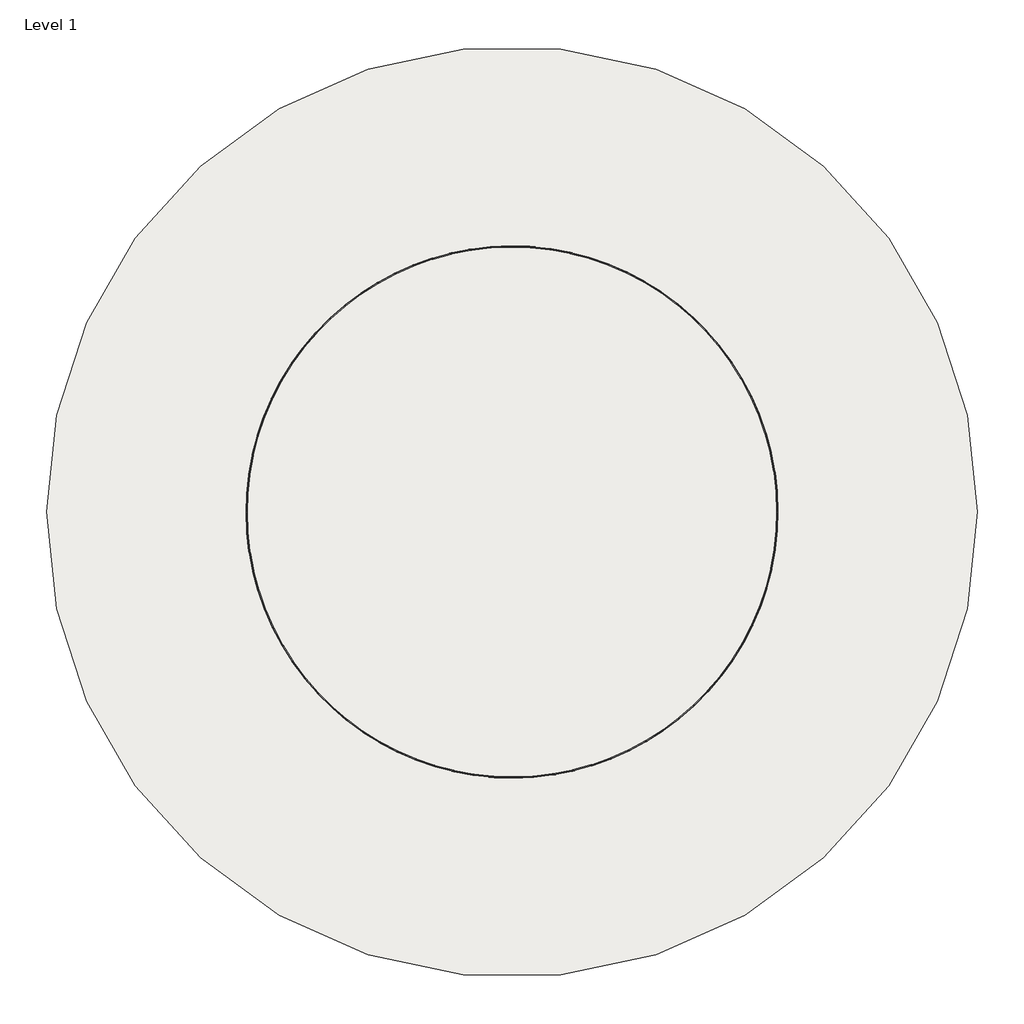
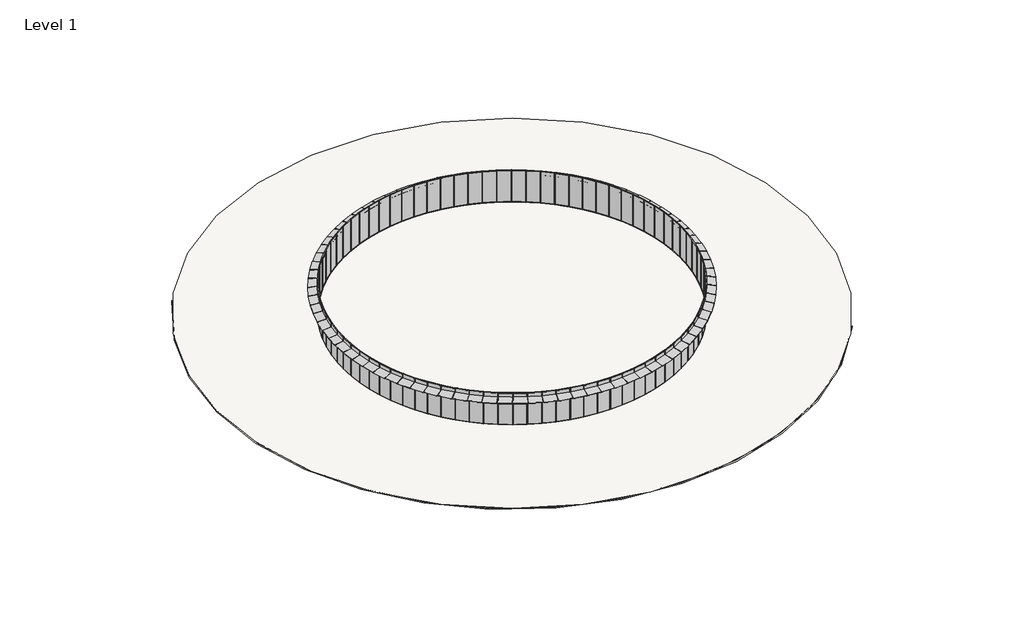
# One storey: 84 plates, 1 slab.
"""IFC4 building model written with IfcOpenShell, lengths in millimetres."""

from ifc_helpers import new_model, si_unit, point, frame, origin, origin_2d, place, context, project, spatial, circle_curve, trimmed, segment, composite_curve, outline, extrude, transform, mapped, element, save
from components import typical_panel_typical_panel_1d89b396, typical_panel_typical_panel_922f9ec0, typical_panel_typical_panel_46f82321

model = new_model("IFC4")

# Units and contexts
model_context = context("Model", 3, world=origin())
ifc_project = project(units=[si_unit("LENGTHUNIT", "METRE", prefix="MILLI")], contexts=[model_context])

# Site, building, storey
site = spatial("IfcSite", under=ifc_project)
building = spatial("IfcBuilding", under=site)
storey = spatial("IfcBuildingStorey", under=building, Name="Level 1", Elevation=0.0)

# Plates
placement = place(None, origin())
typical_panel_typical_panel_shape = typical_panel_typical_panel_1d89b396(model_context)
element("IfcPlate", 1, ObjectType="Typical Panel : Typical Panel", at=placement, inside=storey, context=model_context, shape_type="MappedRepresentation", body=[
    mapped(typical_panel_typical_panel_shape, transform((19971.8749993, 749.4724807, 0.0), x_axis=(-0.037500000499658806, 0.9992966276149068, 0.0), y_axis=(-0.9992966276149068, -0.037500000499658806, 0.0), z_axis=(0.0, 0.0, 1.0))),
])
element("IfcPlate", 2, ObjectType="Typical Panel : Typical Panel", at=placement, inside=storey, context=model_context, shape_type="MappedRepresentation", body=[
    mapped(typical_panel_typical_panel_shape, transform((-19971.8749993, -749.4724807, 0.0), x_axis=(0.03750000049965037, -0.9992966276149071, 0.0), y_axis=(0.9992966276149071, 0.03750000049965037, 0.0), z_axis=(0.0, 0.0, 1.0))),
])
typical_panel_typical_panel_2_shape = typical_panel_typical_panel_922f9ec0(model_context)
element("IfcPlate", 3, ObjectType="Typical Panel : Typical Panel", at=placement, inside=storey, context=model_context, shape_type="MappedRepresentation", body=[
    mapped(typical_panel_typical_panel_2_shape, transform((19859.5332009, 2244.2016494, 0.0), x_axis=(-0.11228906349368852, 0.9936755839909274, 0.0), y_axis=(-0.9936755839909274, -0.11228906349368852, 0.0), z_axis=(0.0, 0.0, 1.0))),
])
element("IfcPlate", 4, ObjectType="Typical Panel : Typical Panel", at=placement, inside=storey, context=model_context, shape_type="MappedRepresentation", body=[
    mapped(typical_panel_typical_panel_2_shape, transform((19635.4815283, 3726.3071738, 0.0), x_axis=(-0.18644650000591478, 0.9824651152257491, 0.0), y_axis=(-0.9824651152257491, -0.18644650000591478, 0.0), z_axis=(0.0, 0.0, 1.0))),
])
element("IfcPlate", 5, ObjectType="Typical Panel : Typical Panel", at=placement, inside=storey, context=model_context, shape_type="MappedRepresentation", body=[
    mapped(typical_panel_typical_panel_2_shape, transform((19300.980272, 5187.4522204, 0.0), x_axis=(-0.25955517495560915, 0.9657282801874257, 0.0), y_axis=(-0.9657282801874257, -0.25955517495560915, 0.0), z_axis=(0.0, 0.0, 1.0))),
])
element("IfcPlate", 6, ObjectType="Typical Panel : Typical Panel", at=placement, inside=storey, context=model_context, shape_type="MappedRepresentation", body=[
    mapped(typical_panel_typical_panel_2_shape, transform((18857.9110018, 6619.4178482, 0.0), x_axis=(-0.3312038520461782, 0.9435592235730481, 0.0), y_axis=(-0.9435592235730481, -0.3312038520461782, 0.0), z_axis=(0.0, 0.0, 1.0))),
])
element("IfcPlate", 7, ObjectType="Typical Panel : Typical Panel", at=placement, inside=storey, context=model_context, shape_type="MappedRepresentation", body=[
    mapped(typical_panel_typical_panel_2_shape, transform((18308.7659821, 8014.1492506, 0.0), x_axis=(-0.40098950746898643, 0.9160826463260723, 0.0), y_axis=(-0.9160826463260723, -0.40098950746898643, 0.0), z_axis=(0.0, 0.0, 1.0))),
])
element("IfcPlate", 8, ObjectType="Typical Panel : Typical Panel", at=placement, inside=storey, context=model_context, shape_type="MappedRepresentation", body=[
    mapped(typical_panel_typical_panel_2_shape, transform((17656.6341539, 9363.8010635, 0.0), x_axis=(-0.46851959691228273, 0.883453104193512, 0.0), y_axis=(-0.883453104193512, -0.46851959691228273, 0.0), z_axis=(0.0, 0.0, 1.0))),
])
element("IfcPlate", 9, ObjectType="Typical Panel : Typical Panel", at=placement, inside=storey, context=model_context, shape_type="MappedRepresentation", body=[
    mapped(typical_panel_typical_panel_2_shape, transform((16905.1837585, 10660.7814954, 0.0), x_axis=(-0.533414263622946, 0.8458541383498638, 0.0), y_axis=(-0.8458541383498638, -0.533414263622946, 0.0), z_axis=(0.0, 0.0, 1.0))),
])
element("IfcPlate", 10, ObjectType="Typical Panel : Typical Panel", at=placement, inside=storey, context=model_context, shape_type="MappedRepresentation", body=[
    mapped(typical_panel_typical_panel_2_shape, transform((16058.6417044, 11897.7950314, 0.0), x_axis=(-0.5953084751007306, 0.8034972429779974, 0.0), y_axis=(-0.8034972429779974, -0.5953084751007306, 0.0), z_axis=(0.0, 0.0, 1.0))),
])
element("IfcPlate", 11, ObjectType="Typical Panel : Typical Panel", at=placement, inside=storey, context=model_context, shape_type="MappedRepresentation", body=[
    mapped(typical_panel_typical_panel_2_shape, transform((15121.7697908, 13067.8834703, 0.0), x_axis=(-0.6538540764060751, 0.7566206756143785, 0.0), y_axis=(-0.7566206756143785, -0.6538540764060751, 0.0), z_axis=(0.0, 0.0, 1.0))),
])
element("IfcPlate", 12, ObjectType="Typical Panel : Typical Panel", at=placement, inside=storey, context=model_context, shape_type="MappedRepresentation", body=[
    mapped(typical_panel_typical_panel_2_shape, transform((14099.8379221, 14164.4650648, 0.0), x_axis=(-0.7087217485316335, 0.7054881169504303, 0.0), y_axis=(-0.7054881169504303, -0.7087217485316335, 0.0), z_axis=(0.0, 0.0, 1.0))),
])
element("IfcPlate", 13, ObjectType="Typical Panel : Typical Panel", at=placement, inside=storey, context=model_context, shape_type="MappedRepresentation", body=[
    mapped(typical_panel_typical_panel_2_shape, transform((12998.5944651, 15181.3715432, 0.0), x_axis=(-0.7596028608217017, 0.650387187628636, 0.0), y_axis=(-0.650387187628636, -0.7596028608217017, 0.0), z_axis=(0.0, 0.0, 1.0))),
])
element("IfcPlate", 14, ObjectType="Typical Panel : Typical Panel", at=placement, inside=storey, context=model_context, shape_type="MappedRepresentation", body=[
    mapped(typical_panel_typical_panel_2_shape, transform((11824.2339142, 16112.8828067, 0.0), x_axis=(-0.8062112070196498, 0.591627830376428, 0.0), y_axis=(-0.591627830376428, -0.8062112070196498, 0.0), z_axis=(0.0, 0.0, 1.0))),
])
element("IfcPlate", 15, ObjectType="Typical Panel : Typical Panel", at=placement, inside=storey, context=model_context, shape_type="MappedRepresentation", body=[
    mapped(typical_panel_typical_panel_2_shape, transform((10583.3620475, 16953.7591044, 0.0), x_axis=(-0.8482846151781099, 0.5295405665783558, 0.0), y_axis=(-0.5295405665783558, -0.8482846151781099, 0.0), z_axis=(0.0, 0.0, 1.0))),
])
element("IfcPlate", 16, ObjectType="Typical Panel : Typical Panel", at=placement, inside=storey, context=model_context, shape_type="MappedRepresentation", body=[
    mapped(typical_panel_typical_panel_2_shape, transform((9282.9587694, 17699.2705072, 0.0), x_axis=(-0.885586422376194, 0.46447463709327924, 0.0), y_axis=(-0.46447463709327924, -0.885586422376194, 0.0), z_axis=(0.0, 0.0, 1.0))),
])
element("IfcPlate", 17, ObjectType="Typical Panel : Typical Panel", at=placement, inside=storey, context=model_context, shape_type="MappedRepresentation", body=[
    mapped(typical_panel_typical_panel_2_shape, transform((7930.3388481, 18345.2235133, 0.0), x_axis=(-0.9179068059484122, 0.3967960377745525, 0.0), y_axis=(-0.3967960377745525, -0.9179068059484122, 0.0), z_axis=(0.0, 0.0, 1.0))),
])
element("IfcPlate", 18, ObjectType="Typical Panel : Typical Panel", at=placement, inside=storey, context=model_context, shape_type="MappedRepresentation", body=[
    mapped(typical_panel_typical_panel_2_shape, transform((6533.1107709, 18887.9846372, 0.0), x_axis=(-0.9450639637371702, 0.32688546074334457, 0.0), y_axis=(-0.32688546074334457, -0.9450639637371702, 0.0), z_axis=(0.0, 0.0, 1.0))),
])
element("IfcPlate", 19, ObjectType="Typical Panel : Typical Panel", at=placement, inside=storey, context=model_context, shape_type="MappedRepresentation", body=[
    mapped(typical_panel_typical_panel_2_shape, transform((5099.1339455, 19324.5008475, 0.0), x_axis=(-0.966905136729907, 0.2551361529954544, 0.0), y_axis=(-0.2551361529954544, -0.966905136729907, 0.0), z_axis=(0.0, 0.0, 1.0))),
])
element("IfcPlate", 20, ObjectType="Typical Panel : Typical Panel", at=placement, inside=storey, context=model_context, shape_type="MappedRepresentation", body=[
    mapped(typical_panel_typical_panel_2_shape, transform((3636.4744917, 19652.3167406, 0.0), x_axis=(-0.9833074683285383, 0.18195170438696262, 0.0), y_axis=(-0.18195170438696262, -0.9833074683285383, 0.0), z_axis=(0.0, 0.0, 1.0))),
])
element("IfcPlate", 21, ObjectType="Typical Panel : Typical Panel", at=placement, inside=storey, context=model_context, shape_type="MappedRepresentation", body=[
    mapped(typical_panel_typical_panel_2_shape, transform((2153.3598689, 19869.5883519, 0.0), x_axis=(-0.9941786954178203, 0.10774377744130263, 0.0), y_axis=(-0.10774377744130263, -0.9941786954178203, 0.0), z_axis=(0.0, 0.0, 1.0))),
])
element("IfcPlate", 22, ObjectType="Typical Panel : Typical Panel", at=placement, inside=storey, context=model_context, shape_type="MappedRepresentation", body=[
    mapped(typical_panel_typical_panel_2_shape, transform((658.1325968, 19975.0935288, 0.0), x_axis=(-0.9994576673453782, 0.032929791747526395, 0.0), y_axis=(-0.032929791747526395, -0.9994576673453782, 0.0), z_axis=(0.0, 0.0, 1.0))),
])
element("IfcPlate", 23, ObjectType="Typical Panel : Typical Panel", at=placement, inside=storey, context=model_context, shape_type="MappedRepresentation", body=[
    mapped(typical_panel_typical_panel_2_shape, transform((-840.7966711, 19968.2388046, 0.0), x_axis=(-0.999114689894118, -0.04206942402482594, 0.0), y_axis=(0.04206942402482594, -0.999114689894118, 0.0), z_axis=(0.0, 0.0, 1.0))),
])
element("IfcPlate", 24, ObjectType="Typical Panel : Typical Panel", at=placement, inside=storey, context=model_context, shape_type="MappedRepresentation", body=[
    mapped(typical_panel_typical_panel_2_shape, transform((-2334.9964577, 19849.0627371, 0.0), x_axis=(-0.9931516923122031, -0.11683199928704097, 0.0), y_axis=(0.11683199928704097, -0.9931516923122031, 0.0), z_axis=(0.0, 0.0, 1.0))),
])
element("IfcPlate", 25, ObjectType="Typical Panel : Typical Panel", at=placement, inside=storey, context=model_context, shape_type="MappedRepresentation", body=[
    mapped(typical_panel_typical_panel_2_shape, transform((-3816.0618893, 19618.2356917, 0.0), x_axis=(-0.9816022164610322, -0.19093739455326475, 0.0), y_axis=(0.19093739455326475, -0.9816022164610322, 0.0), z_axis=(0.0, 0.0, 1.0))),
])
element("IfcPlate", 26, ObjectType="Typical Panel : Typical Panel", at=placement, inside=storey, context=model_context, shape_type="MappedRepresentation", body=[
    mapped(typical_panel_typical_panel_2_shape, transform((-5275.6619728, 19277.0560706, 0.0), x_axis=(-0.964531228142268, -0.2639687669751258, 0.0), y_axis=(0.2639687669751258, -0.964531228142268, 0.0), z_axis=(0.0, 0.0, 1.0))),
])
element("IfcPlate", 27, ObjectType="Typical Panel : Typical Panel", at=placement, inside=storey, context=model_context, shape_type="MappedRepresentation", body=[
    mapped(typical_panel_typical_panel_2_shape, transform((-6705.5864576, 18827.4430091, 0.0), x_axis=(-0.9420347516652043, -0.3355153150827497, 0.0), y_axis=(0.3355153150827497, -0.9420347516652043, 0.0), z_axis=(0.0, 0.0, 1.0))),
])
element("IfcPlate", 28, ObjectType="Typical Panel : Typical Panel", at=placement, inside=storey, context=model_context, shape_type="MappedRepresentation", body=[
    mapped(typical_panel_typical_panel_2_shape, transform((-8097.7920187, 18271.9255806, 0.0), x_axis=(-0.9142393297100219, -0.4051745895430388, 0.0), y_axis=(0.4051745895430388, -0.9142393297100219, 0.0), z_axis=(0.0, 0.0, 1.0))),
])
element("IfcPlate", 29, ObjectType="Typical Panel : Typical Panel", at=placement, inside=storey, context=model_context, shape_type="MappedRepresentation", body=[
    mapped(typical_panel_typical_panel_2_shape, transform((-9444.4474996, 17613.6285707, 0.0), x_axis=(-0.881301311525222, -0.4725547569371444, 0.0), y_axis=(0.4725547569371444, -0.881301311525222, 0.0), z_axis=(0.0, 0.0, 1.0))),
])
element("IfcPlate", 30, ObjectType="Typical Panel : Typical Panel", at=placement, inside=storey, context=model_context, shape_type="MappedRepresentation", body=[
    mapped(typical_panel_typical_panel_2_shape, transform((-10737.9779633, 16856.2549002, 0.0), x_axis=(-0.8434059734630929, -0.5372768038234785, 0.0), y_axis=(0.5372768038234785, -0.8434059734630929, 0.0), z_axis=(0.0, 0.0, 1.0))),
])
element("IfcPlate", 31, ObjectType="Typical Panel : Typical Panel", at=placement, inside=storey, context=model_context, shape_type="MappedRepresentation", body=[
    mapped(typical_panel_typical_panel_2_shape, transform((-11971.107301, 16004.0647958, 0.0), x_axis=(-0.8007664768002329, -0.5989766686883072, 0.0), y_axis=(0.5989766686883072, -0.8007664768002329, 0.0), z_axis=(0.0, 0.0, 1.0))),
])
element("IfcPlate", 32, ObjectType="Typical Panel : Typical Panel", at=placement, inside=storey, context=model_context, shape_type="MappedRepresentation", body=[
    mapped(typical_panel_typical_panel_2_shape, transform((-13136.8991602, 15061.8518269, 0.0), x_axis=(-0.753622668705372, -0.6573072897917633, 0.0), y_axis=(0.6573072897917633, -0.753622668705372, 0.0), z_axis=(0.0, 0.0, 1.0))),
])
element("IfcPlate", 33, ObjectType="Typical Panel : Typical Panel", at=placement, inside=storey, context=model_context, shape_type="MappedRepresentation", body=[
    mapped(typical_panel_typical_panel_2_shape, transform((-14228.7959615, 14034.9159415, 0.0), x_axis=(-0.7022397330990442, -0.7119405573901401, 0.0), y_axis=(0.7119405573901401, -0.7022397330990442, 0.0), z_axis=(0.0, 0.0, 1.0))),
])
element("IfcPlate", 34, ObjectType="Typical Panel : Typical Panel", at=placement, inside=storey, context=model_context, shape_type="MappedRepresentation", body=[
    mapped(typical_panel_typical_panel_2_shape, transform((-15240.6557856, 12929.033654, 0.0), x_axis=(-0.6469066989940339, -0.7625691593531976, 0.0), y_axis=(0.7625691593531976, -0.6469066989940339, 0.0), z_axis=(0.0, 0.0, 1.0))),
])
element("IfcPlate", 35, ObjectType="Typical Panel : Typical Panel", at=placement, inside=storey, context=model_context, shape_type="MappedRepresentation", body=[
    mapped(typical_panel_typical_panel_2_shape, transform((-16166.7869209, 11750.4255521, 0.0), x_axis=(-0.58793481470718, -0.808908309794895, 0.0), y_axis=(0.808908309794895, -0.58793481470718, 0.0), z_axis=(0.0, 0.0, 1.0))),
])
element("IfcPlate", 36, ObjectType="Typical Panel : Typical Panel", at=placement, inside=storey, context=model_context, shape_type="MappedRepresentation", body=[
    mapped(typical_panel_typical_panel_2_shape, transform((-17001.9798797, 10505.7213065, 0.0), x_axis=(-0.5256557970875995, -0.8506973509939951, 0.0), y_axis=(0.8506973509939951, -0.5256557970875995, 0.0), z_axis=(0.0, 0.0, 1.0))),
])
element("IfcPlate", 37, ObjectType="Typical Panel : Typical Panel", at=placement, inside=storey, context=model_context, shape_type="MappedRepresentation", body=[
    mapped(typical_panel_typical_panel_2_shape, transform((-17741.5367017, 9201.9223786, 0.0), x_axis=(-0.46041996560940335, -0.8877012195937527, 0.0), y_axis=(0.8877012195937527, -0.46041996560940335, 0.0), z_axis=(0.0, 0.0, 1.0))),
])
element("IfcPlate", 38, ObjectType="Typical Panel : Typical Panel", at=placement, inside=storey, context=model_context, shape_type="MappedRepresentation", body=[
    mapped(typical_panel_typical_panel_2_shape, transform((-18381.2973798, 7846.3626373, 0.0), x_axis=(-0.3925942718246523, -0.9197117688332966, 0.0), y_axis=(0.9197117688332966, -0.3925942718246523, 0.0), z_axis=(0.0, 0.0, 1.0))),
])
element("IfcPlate", 39, ObjectType="Typical Panel : Typical Panel", at=placement, inside=storey, context=model_context, shape_type="MappedRepresentation", body=[
    mapped(typical_panel_typical_panel_2_shape, transform((-18917.6632601, 6446.6671061, 0.0), x_axis=(-0.32256023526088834, -0.9465489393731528, 0.0), y_axis=(0.9465489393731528, -0.32256023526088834, 0.0), z_axis=(0.0, 0.0, 1.0))),
])
element("IfcPlate", 40, ObjectType="Typical Panel : Typical Panel", at=placement, inside=storey, context=model_context, shape_type="MappedRepresentation", body=[
    mapped(typical_panel_typical_panel_2_shape, transform((-19347.6172846, 5010.7090725, 0.0), x_axis=(-0.2507117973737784, -0.968061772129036, 0.0), y_axis=(0.968061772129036, -0.2507117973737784, 0.0), z_axis=(0.0, 0.0, 1.0))),
])
element("IfcPlate", 41, ObjectType="Typical Panel : Typical Panel", at=placement, inside=storey, context=model_context, shape_type="MappedRepresentation", body=[
    mapped(typical_panel_typical_panel_2_shape, transform((-19668.7409618, 3546.5658003, 0.0), x_axis=(-0.17745310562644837, -0.9841292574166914, 0.0), y_axis=(0.9841292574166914, -0.17745310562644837, 0.0), z_axis=(0.0, 0.0, 1.0))),
])
element("IfcPlate", 42, ObjectType="Typical Panel : Typical Panel", at=placement, inside=storey, context=model_context, shape_type="MappedRepresentation", body=[
    mapped(typical_panel_typical_panel_2_shape, transform((-19879.2279712, 2062.4730955, 0.0), x_axis=(-0.10319624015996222, -0.9946610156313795, 0.0), y_axis=(0.9946610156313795, -0.10319624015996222, 0.0), z_axis=(0.0, 0.0, 1.0))),
])
element("IfcPlate", 43, ObjectType="Typical Panel : Typical Panel", at=placement, inside=storey, context=model_context, shape_type="MappedRepresentation", body=[
    mapped(typical_panel_typical_panel_2_shape, transform((-19859.5332009, -2244.2016494, 0.0), x_axis=(0.11228906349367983, -0.9936755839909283, 0.0), y_axis=(0.9936755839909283, 0.11228906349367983, 0.0), z_axis=(0.0, 0.0, 1.0))),
])
element("IfcPlate", 44, ObjectType="Typical Panel : Typical Panel", at=placement, inside=storey, context=model_context, shape_type="MappedRepresentation", body=[
    mapped(typical_panel_typical_panel_2_shape, transform((-19635.4815283, -3726.3071738, 0.0), x_axis=(0.1864465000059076, -0.9824651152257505, 0.0), y_axis=(0.9824651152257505, 0.1864465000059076, 0.0), z_axis=(0.0, 0.0, 1.0))),
])
element("IfcPlate", 45, ObjectType="Typical Panel : Typical Panel", at=placement, inside=storey, context=model_context, shape_type="MappedRepresentation", body=[
    mapped(typical_panel_typical_panel_2_shape, transform((-19300.980272, -5187.4522204, 0.0), x_axis=(0.2595551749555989, -0.9657282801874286, 0.0), y_axis=(0.9657282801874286, 0.2595551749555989, 0.0), z_axis=(0.0, 0.0, 1.0))),
])
element("IfcPlate", 46, ObjectType="Typical Panel : Typical Panel", at=placement, inside=storey, context=model_context, shape_type="MappedRepresentation", body=[
    mapped(typical_panel_typical_panel_2_shape, transform((-18857.9110018, -6619.4178482, 0.0), x_axis=(0.33120385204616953, -0.9435592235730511, 0.0), y_axis=(0.9435592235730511, 0.33120385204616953, 0.0), z_axis=(0.0, 0.0, 1.0))),
])
element("IfcPlate", 47, ObjectType="Typical Panel : Typical Panel", at=placement, inside=storey, context=model_context, shape_type="MappedRepresentation", body=[
    mapped(typical_panel_typical_panel_2_shape, transform((-18308.7659821, -8014.1492506, 0.0), x_axis=(0.4009895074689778, -0.916082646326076, 0.0), y_axis=(0.916082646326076, 0.4009895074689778, 0.0), z_axis=(0.0, 0.0, 1.0))),
])
element("IfcPlate", 48, ObjectType="Typical Panel : Typical Panel", at=placement, inside=storey, context=model_context, shape_type="MappedRepresentation", body=[
    mapped(typical_panel_typical_panel_2_shape, transform((-17656.6341539, -9363.8010635, 0.0), x_axis=(0.46851959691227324, -0.8834531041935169, 0.0), y_axis=(0.8834531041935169, 0.46851959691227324, 0.0), z_axis=(0.0, 0.0, 1.0))),
])
element("IfcPlate", 49, ObjectType="Typical Panel : Typical Panel", at=placement, inside=storey, context=model_context, shape_type="MappedRepresentation", body=[
    mapped(typical_panel_typical_panel_2_shape, transform((-16905.1837585, -10660.7814954, 0.0), x_axis=(0.5334142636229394, -0.8458541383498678, 0.0), y_axis=(0.8458541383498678, 0.5334142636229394, 0.0), z_axis=(0.0, 0.0, 1.0))),
])
element("IfcPlate", 50, ObjectType="Typical Panel : Typical Panel", at=placement, inside=storey, context=model_context, shape_type="MappedRepresentation", body=[
    mapped(typical_panel_typical_panel_2_shape, transform((-16058.6417044, -11897.7950314, 0.0), x_axis=(0.5953084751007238, -0.8034972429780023, 0.0), y_axis=(0.8034972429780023, 0.5953084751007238, 0.0), z_axis=(0.0, 0.0, 1.0))),
])
element("IfcPlate", 51, ObjectType="Typical Panel : Typical Panel", at=placement, inside=storey, context=model_context, shape_type="MappedRepresentation", body=[
    mapped(typical_panel_typical_panel_2_shape, transform((-15121.7697908, -13067.8834703, 0.0), x_axis=(0.6538540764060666, -0.7566206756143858, 0.0), y_axis=(0.7566206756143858, 0.6538540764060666, 0.0), z_axis=(0.0, 0.0, 1.0))),
])
element("IfcPlate", 52, ObjectType="Typical Panel : Typical Panel", at=placement, inside=storey, context=model_context, shape_type="MappedRepresentation", body=[
    mapped(typical_panel_typical_panel_2_shape, transform((-14099.8379221, -14164.4650648, 0.0), x_axis=(0.7087217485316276, -0.7054881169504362, 0.0), y_axis=(0.7054881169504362, 0.7087217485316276, 0.0), z_axis=(0.0, 0.0, 1.0))),
])
element("IfcPlate", 53, ObjectType="Typical Panel : Typical Panel", at=placement, inside=storey, context=model_context, shape_type="MappedRepresentation", body=[
    mapped(typical_panel_typical_panel_2_shape, transform((-12998.5944651, -15181.3715432, 0.0), x_axis=(0.7596028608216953, -0.6503871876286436, 0.0), y_axis=(0.6503871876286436, 0.7596028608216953, 0.0), z_axis=(0.0, 0.0, 1.0))),
])
element("IfcPlate", 54, ObjectType="Typical Panel : Typical Panel", at=placement, inside=storey, context=model_context, shape_type="MappedRepresentation", body=[
    mapped(typical_panel_typical_panel_2_shape, transform((-11824.2339142, -16112.8828067, 0.0), x_axis=(0.8062112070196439, -0.591627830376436, 0.0), y_axis=(0.591627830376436, 0.8062112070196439, 0.0), z_axis=(0.0, 0.0, 1.0))),
])
element("IfcPlate", 55, ObjectType="Typical Panel : Typical Panel", at=placement, inside=storey, context=model_context, shape_type="MappedRepresentation", body=[
    mapped(typical_panel_typical_panel_2_shape, transform((-10583.3620475, -16953.7591044, 0.0), x_axis=(0.8482846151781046, -0.5295405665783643, 0.0), y_axis=(0.5295405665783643, 0.8482846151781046, 0.0), z_axis=(0.0, 0.0, 1.0))),
])
element("IfcPlate", 56, ObjectType="Typical Panel : Typical Panel", at=placement, inside=storey, context=model_context, shape_type="MappedRepresentation", body=[
    mapped(typical_panel_typical_panel_2_shape, transform((-9282.9587694, -17699.2705072, 0.0), x_axis=(0.8855864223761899, -0.46447463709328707, 0.0), y_axis=(0.46447463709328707, 0.8855864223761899, 0.0), z_axis=(0.0, 0.0, 1.0))),
])
element("IfcPlate", 57, ObjectType="Typical Panel : Typical Panel", at=placement, inside=storey, context=model_context, shape_type="MappedRepresentation", body=[
    mapped(typical_panel_typical_panel_2_shape, transform((-7930.3388481, -18345.2235133, 0.0), x_axis=(0.9179068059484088, -0.39679603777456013, 0.0), y_axis=(0.39679603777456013, 0.9179068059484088, 0.0), z_axis=(0.0, 0.0, 1.0))),
])
element("IfcPlate", 58, ObjectType="Typical Panel : Typical Panel", at=placement, inside=storey, context=model_context, shape_type="MappedRepresentation", body=[
    mapped(typical_panel_typical_panel_2_shape, transform((-6533.1107709, -18887.9846372, 0.0), x_axis=(0.9450639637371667, -0.3268854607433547, 0.0), y_axis=(0.3268854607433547, 0.9450639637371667, 0.0), z_axis=(0.0, 0.0, 1.0))),
])
element("IfcPlate", 59, ObjectType="Typical Panel : Typical Panel", at=placement, inside=storey, context=model_context, shape_type="MappedRepresentation", body=[
    mapped(typical_panel_typical_panel_2_shape, transform((-5099.1339455, -19324.5008475, 0.0), x_axis=(0.9669051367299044, -0.2551361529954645, 0.0), y_axis=(0.2551361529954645, 0.9669051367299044, 0.0), z_axis=(0.0, 0.0, 1.0))),
])
element("IfcPlate", 60, ObjectType="Typical Panel : Typical Panel", at=placement, inside=storey, context=model_context, shape_type="MappedRepresentation", body=[
    mapped(typical_panel_typical_panel_2_shape, transform((-3636.4744917, -19652.3167406, 0.0), x_axis=(0.9833074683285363, -0.1819517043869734, 0.0), y_axis=(0.1819517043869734, 0.9833074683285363, 0.0), z_axis=(0.0, 0.0, 1.0))),
])
element("IfcPlate", 61, ObjectType="Typical Panel : Typical Panel", at=placement, inside=storey, context=model_context, shape_type="MappedRepresentation", body=[
    mapped(typical_panel_typical_panel_2_shape, transform((-2153.3598689, -19869.5883519, 0.0), x_axis=(0.9941786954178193, -0.10774377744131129, 0.0), y_axis=(0.10774377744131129, 0.9941786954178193, 0.0), z_axis=(0.0, 0.0, 1.0))),
])
element("IfcPlate", 62, ObjectType="Typical Panel : Typical Panel", at=placement, inside=storey, context=model_context, shape_type="MappedRepresentation", body=[
    mapped(typical_panel_typical_panel_2_shape, transform((-658.1325968, -19975.0935288, 0.0), x_axis=(0.9994576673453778, -0.032929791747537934, 0.0), y_axis=(0.032929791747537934, 0.9994576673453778, 0.0), z_axis=(0.0, 0.0, 1.0))),
])
element("IfcPlate", 63, ObjectType="Typical Panel : Typical Panel", at=placement, inside=storey, context=model_context, shape_type="MappedRepresentation", body=[
    mapped(typical_panel_typical_panel_2_shape, transform((840.7966711, -19968.2388046, 0.0), x_axis=(0.9991146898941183, 0.042069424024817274, 0.0), y_axis=(-0.042069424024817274, 0.9991146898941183, 0.0), z_axis=(0.0, 0.0, 1.0))),
])
element("IfcPlate", 64, ObjectType="Typical Panel : Typical Panel", at=placement, inside=storey, context=model_context, shape_type="MappedRepresentation", body=[
    mapped(typical_panel_typical_panel_2_shape, transform((2334.9964577, -19849.0627371, 0.0), x_axis=(0.9931516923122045, 0.11683199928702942, 0.0), y_axis=(-0.11683199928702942, 0.9931516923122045, 0.0), z_axis=(0.0, 0.0, 1.0))),
])
element("IfcPlate", 65, ObjectType="Typical Panel : Typical Panel", at=placement, inside=storey, context=model_context, shape_type="MappedRepresentation", body=[
    mapped(typical_panel_typical_panel_2_shape, transform((3816.0618893, -19618.2356917, 0.0), x_axis=(0.9816022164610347, 0.19093739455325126, 0.0), y_axis=(-0.19093739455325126, 0.9816022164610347, 0.0), z_axis=(0.0, 0.0, 1.0))),
])
element("IfcPlate", 66, ObjectType="Typical Panel : Typical Panel", at=placement, inside=storey, context=model_context, shape_type="MappedRepresentation", body=[
    mapped(typical_panel_typical_panel_2_shape, transform((5275.6619728, -19277.0560706, 0.0), x_axis=(0.9645312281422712, 0.2639687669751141, 0.0), y_axis=(-0.2639687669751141, 0.9645312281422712, 0.0), z_axis=(0.0, 0.0, 1.0))),
])
element("IfcPlate", 67, ObjectType="Typical Panel : Typical Panel", at=placement, inside=storey, context=model_context, shape_type="MappedRepresentation", body=[
    mapped(typical_panel_typical_panel_2_shape, transform((6705.5864576, -18827.4430091, 0.0), x_axis=(0.942034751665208, 0.3355153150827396, 0.0), y_axis=(-0.3355153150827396, 0.942034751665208, 0.0), z_axis=(0.0, 0.0, 1.0))),
])
element("IfcPlate", 68, ObjectType="Typical Panel : Typical Panel", at=placement, inside=storey, context=model_context, shape_type="MappedRepresentation", body=[
    mapped(typical_panel_typical_panel_2_shape, transform((8097.7920187, -18271.9255806, 0.0), x_axis=(0.9142393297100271, 0.40517458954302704, 0.0), y_axis=(-0.40517458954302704, 0.9142393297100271, 0.0), z_axis=(0.0, 0.0, 1.0))),
])
element("IfcPlate", 69, ObjectType="Typical Panel : Typical Panel", at=placement, inside=storey, context=model_context, shape_type="MappedRepresentation", body=[
    mapped(typical_panel_typical_panel_2_shape, transform((9444.4474996, -17613.6285707, 0.0), x_axis=(0.8813013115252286, 0.47255475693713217, 0.0), y_axis=(-0.47255475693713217, 0.8813013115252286, 0.0), z_axis=(0.0, 0.0, 1.0))),
])
element("IfcPlate", 70, ObjectType="Typical Panel : Typical Panel", at=placement, inside=storey, context=model_context, shape_type="MappedRepresentation", body=[
    mapped(typical_panel_typical_panel_2_shape, transform((10737.9779633, -16856.2549002, 0.0), x_axis=(0.8434059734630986, 0.5372768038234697, 0.0), y_axis=(-0.5372768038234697, 0.8434059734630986, 0.0), z_axis=(0.0, 0.0, 1.0))),
])
element("IfcPlate", 71, ObjectType="Typical Panel : Typical Panel", at=placement, inside=storey, context=model_context, shape_type="MappedRepresentation", body=[
    mapped(typical_panel_typical_panel_2_shape, transform((11971.107301, -16004.0647958, 0.0), x_axis=(0.8007664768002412, 0.5989766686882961, 0.0), y_axis=(-0.5989766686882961, 0.8007664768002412, 0.0), z_axis=(0.0, 0.0, 1.0))),
])
element("IfcPlate", 72, ObjectType="Typical Panel : Typical Panel", at=placement, inside=storey, context=model_context, shape_type="MappedRepresentation", body=[
    mapped(typical_panel_typical_panel_2_shape, transform((13136.8991602, -15061.8518269, 0.0), x_axis=(0.7536226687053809, 0.6573072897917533, 0.0), y_axis=(-0.6573072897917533, 0.7536226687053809, 0.0), z_axis=(0.0, 0.0, 1.0))),
])
element("IfcPlate", 73, ObjectType="Typical Panel : Typical Panel", at=placement, inside=storey, context=model_context, shape_type="MappedRepresentation", body=[
    mapped(typical_panel_typical_panel_2_shape, transform((14228.7959615, -14034.9159415, 0.0), x_axis=(0.7022397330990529, 0.7119405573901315, 0.0), y_axis=(-0.7119405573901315, 0.7022397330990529, 0.0), z_axis=(0.0, 0.0, 1.0))),
])
element("IfcPlate", 74, ObjectType="Typical Panel : Typical Panel", at=placement, inside=storey, context=model_context, shape_type="MappedRepresentation", body=[
    mapped(typical_panel_typical_panel_2_shape, transform((15240.6557856, -12929.033654, 0.0), x_axis=(0.6469066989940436, 0.7625691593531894, 0.0), y_axis=(-0.7625691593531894, 0.6469066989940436, 0.0), z_axis=(0.0, 0.0, 1.0))),
])
element("IfcPlate", 75, ObjectType="Typical Panel : Typical Panel", at=placement, inside=storey, context=model_context, shape_type="MappedRepresentation", body=[
    mapped(typical_panel_typical_panel_2_shape, transform((16166.7869209, -11750.4255521, 0.0), x_axis=(0.587934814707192, 0.8089083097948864, 0.0), y_axis=(-0.8089083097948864, 0.587934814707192, 0.0), z_axis=(0.0, 0.0, 1.0))),
])
element("IfcPlate", 76, ObjectType="Typical Panel : Typical Panel", at=placement, inside=storey, context=model_context, shape_type="MappedRepresentation", body=[
    mapped(typical_panel_typical_panel_2_shape, transform((17001.9798797, -10505.7213065, 0.0), x_axis=(0.5256557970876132, 0.8506973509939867, 0.0), y_axis=(-0.8506973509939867, 0.5256557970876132, 0.0), z_axis=(0.0, 0.0, 1.0))),
])
element("IfcPlate", 77, ObjectType="Typical Panel : Typical Panel", at=placement, inside=storey, context=model_context, shape_type="MappedRepresentation", body=[
    mapped(typical_panel_typical_panel_2_shape, transform((17741.5367017, -9201.9223786, 0.0), x_axis=(0.46041996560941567, 0.8877012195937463, 0.0), y_axis=(-0.8877012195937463, 0.46041996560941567, 0.0), z_axis=(0.0, 0.0, 1.0))),
])
element("IfcPlate", 78, ObjectType="Typical Panel : Typical Panel", at=placement, inside=storey, context=model_context, shape_type="MappedRepresentation", body=[
    mapped(typical_panel_typical_panel_2_shape, transform((18381.2973798, -7846.3626373, 0.0), x_axis=(0.39259427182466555, 0.9197117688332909, 0.0), y_axis=(-0.9197117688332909, 0.39259427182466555, 0.0), z_axis=(0.0, 0.0, 1.0))),
])
element("IfcPlate", 79, ObjectType="Typical Panel : Typical Panel", at=placement, inside=storey, context=model_context, shape_type="MappedRepresentation", body=[
    mapped(typical_panel_typical_panel_2_shape, transform((18917.6632601, -6446.6671061, 0.0), x_axis=(0.3225602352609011, 0.9465489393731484, 0.0), y_axis=(-0.9465489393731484, 0.3225602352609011, 0.0), z_axis=(0.0, 0.0, 1.0))),
])
element("IfcPlate", 80, ObjectType="Typical Panel : Typical Panel", at=placement, inside=storey, context=model_context, shape_type="MappedRepresentation", body=[
    mapped(typical_panel_typical_panel_2_shape, transform((19347.6172846, -5010.7090725, 0.0), x_axis=(0.2507117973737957, 0.9680617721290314, 0.0), y_axis=(-0.9680617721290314, 0.2507117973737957, 0.0), z_axis=(0.0, 0.0, 1.0))),
])
element("IfcPlate", 81, ObjectType="Typical Panel : Typical Panel", at=placement, inside=storey, context=model_context, shape_type="MappedRepresentation", body=[
    mapped(typical_panel_typical_panel_2_shape, transform((19668.7409618, -3546.5658003, 0.0), x_axis=(0.17745310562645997, 0.9841292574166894, 0.0), y_axis=(-0.9841292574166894, 0.17745310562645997, 0.0), z_axis=(0.0, 0.0, 1.0))),
])
element("IfcPlate", 82, ObjectType="Typical Panel : Typical Panel", at=placement, inside=storey, context=model_context, shape_type="MappedRepresentation", body=[
    mapped(typical_panel_typical_panel_2_shape, transform((19879.2279712, -2062.4730955, 0.0), x_axis=(0.1031962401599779, 0.9946610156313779, 0.0), y_axis=(-0.9946610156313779, 0.1031962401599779, 0.0), z_axis=(0.0, 0.0, 1.0))),
])
typical_panel_typical_panel_3_shape = typical_panel_typical_panel_46f82321(model_context)
element("IfcPlate", 83, ObjectType="Typical Panel : Typical Panel", at=placement, inside=storey, context=model_context, shape_type="MappedRepresentation", body=[
    mapped(typical_panel_typical_panel_3_shape, transform((-19978.3125757, 658.2386669, 0.0), x_axis=(-0.03292979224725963, -0.9994576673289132, 0.0), y_axis=(0.9994576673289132, -0.03292979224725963, 0.0), z_axis=(0.0, 0.0, 1.0))),
])
element("IfcPlate", 84, ObjectType="Typical Panel : Typical Panel", at=placement, inside=storey, context=model_context, shape_type="MappedRepresentation", body=[
    mapped(typical_panel_typical_panel_3_shape, transform((19978.3125757, -658.2386669, 0.0), x_axis=(0.03292979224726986, 0.9994576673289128, 0.0), y_axis=(-0.9994576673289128, 0.03292979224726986, 0.0), z_axis=(0.0, 0.0, 1.0))),
])

# Slab
element("IfcSlab", 85, ObjectType="Generic 150mm", at=placement, inside=storey, context=model_context, shape_type="SweptSolid", body=[
    extrude(outline(composite_curve([segment(trimmed(circle_curve(origin_2d(), 35000.0), [point((-35000.0, 0.0))], [point((35000.0, 0.0))], False, "CARTESIAN"), True, "CONTINUOUS"), segment(trimmed(circle_curve(origin_2d(), 35000.0), [point((35000.0, 0.0))], [point((-35000.0, 0.0))], False, "CARTESIAN"), True, "CONTINUOUS")], self_intersect=False)), frame((0.0, 0.0, -150.0), z_axis=(0.0, 0.0, 1.0), x_axis=(1.0, 0.0, 0.0)), (0.0, 0.0, 1.0), 150.0),
])

save(model, "model.ifc")
